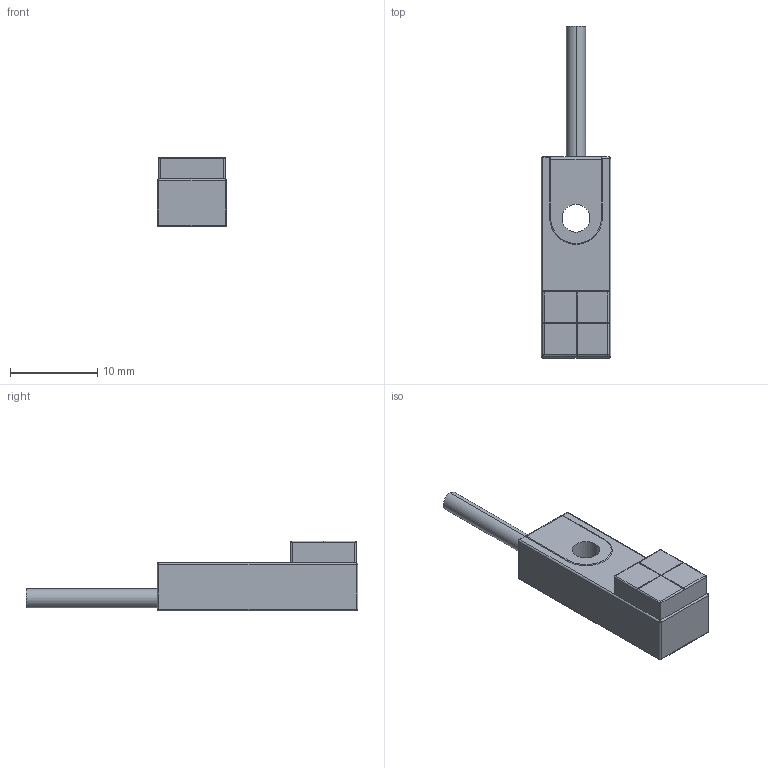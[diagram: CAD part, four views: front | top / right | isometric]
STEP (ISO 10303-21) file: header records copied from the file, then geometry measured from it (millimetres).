
FILE_DESCRIPTION (( 'STEP AP214' ), '1' );
FILE_NAME ('E08.STEP', '2015-09-23T09:32:48', ( '' ), ( '' ), 'SwSTEP 2.0', 'SolidWorks 2013', '' );
FILE_SCHEMA (( 'AUTOMOTIVE_DESIGN' ));
Length unit declared in the file: millimetre
Products named in the file (1): E08
Bounding box: 8 x 38 x 8 mm (x, y, z)
Volume: 1170.7 mm3; surface area: 918.4 mm2
Topology: 1 solids, 1 shells, 62 faces, 154 edges, 89 vertices
Faces by surface type: plane 27, cylinder 26, sphere 6, torus 3
Entity records: 1848 total; most frequent: CARTESIAN_POINT 357, DIRECTION 303, ORIENTED_EDGE 296, EDGE_CURVE 148, AXIS2_PLACEMENT_3D 109, VERTEX_POINT 89, VECTOR 85, LINE 85
